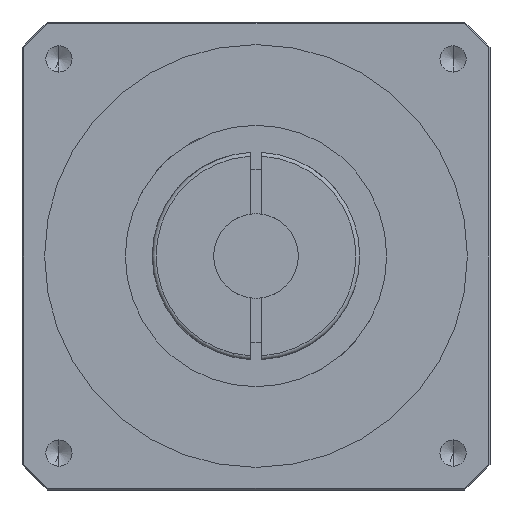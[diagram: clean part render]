
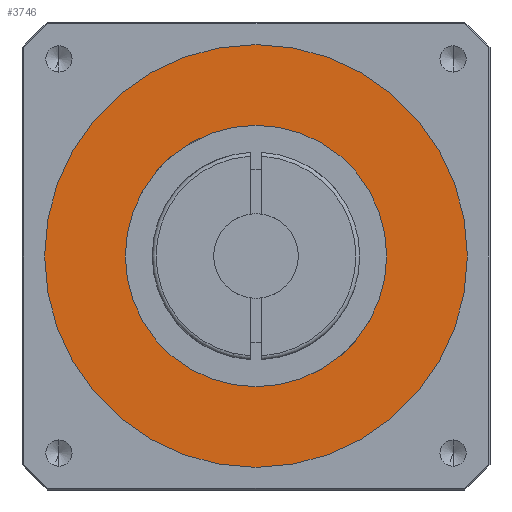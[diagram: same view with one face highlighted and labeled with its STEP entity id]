
A CAD part, front view. The second image highlights one B-rep face of the part: STEP entity #3746.
In plain terms, the highlighted planar face has unit normal (0, -1, 0).
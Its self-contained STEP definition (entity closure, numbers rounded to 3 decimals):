
#94 = EDGE_CURVE ( 'NONE', #3417, #3414, #1978, .T. ) ;
#289 = AXIS2_PLACEMENT_3D ( 'NONE', #479, #480, #481 ) ;
#479 = CARTESIAN_POINT ( 'NONE',  ( 0., -119.5, 0. ) ) ;
#480 = DIRECTION ( 'NONE',  ( 0., -1., 0. ) ) ;
#481 = DIRECTION ( 'NONE',  ( 0., 0., -1. ) ) ;
#496 = CIRCLE ( 'NONE', #2353, 55. ) ;
#763 = FACE_BOUND ( 'NONE', #3522, .T. ) ;
#765 = FACE_OUTER_BOUND ( 'NONE', #3530, .T. ) ;
#1328 = CARTESIAN_POINT ( 'NONE',  ( 0., -119.5, 0. ) ) ;
#1334 = PLANE ( 'NONE',  #1393 ) ;
#1336 = DIRECTION ( 'NONE',  ( 0., -1., 0. ) ) ;
#1337 = DIRECTION ( 'NONE',  ( 0., 0., -1. ) ) ;
#1393 = AXIS2_PLACEMENT_3D ( 'NONE', #1328, #1336, #1337 ) ;
#1846 = CARTESIAN_POINT ( 'NONE',  ( 0., -119.5, -55. ) ) ;
#1861 = CARTESIAN_POINT ( 'NONE',  ( 0., -119.5, 55. ) ) ;
#1978 = CIRCLE ( 'NONE', #289, 34. ) ;
#2213 = CIRCLE ( 'NONE', #2328, 34. ) ;
#2214 = CIRCLE ( 'NONE', #2329, 55. ) ;
#2328 = AXIS2_PLACEMENT_3D ( 'NONE', #3164, #3165, #3166 ) ;
#2329 = AXIS2_PLACEMENT_3D ( 'NONE', #3168, #3169, #3170 ) ;
#2353 = AXIS2_PLACEMENT_3D ( 'NONE', #4015, #4016, #4017 ) ;
#2386 = EDGE_CURVE ( 'NONE', #3414, #3417, #2213, .T. ) ;
#2387 = EDGE_CURVE ( 'NONE', #4586, #4601, #2214, .T. ) ;
#2426 = EDGE_CURVE ( 'NONE', #4601, #4586, #496, .T. ) ;
#3164 = CARTESIAN_POINT ( 'NONE',  ( 0., -119.5, 0. ) ) ;
#3165 = DIRECTION ( 'NONE',  ( 0., -1., 0. ) ) ;
#3166 = DIRECTION ( 'NONE',  ( 0., 0., -1. ) ) ;
#3168 = CARTESIAN_POINT ( 'NONE',  ( 0., -119.5, 0. ) ) ;
#3169 = DIRECTION ( 'NONE',  ( 0., -1., 0. ) ) ;
#3170 = DIRECTION ( 'NONE',  ( 0., 0., -1. ) ) ;
#3414 = VERTEX_POINT ( 'NONE', #4158 ) ;
#3417 = VERTEX_POINT ( 'NONE', #4161 ) ;
#3522 = EDGE_LOOP ( 'NONE', ( #4448, #4449 ) ) ;
#3530 = EDGE_LOOP ( 'NONE', ( #4450, #4451 ) ) ;
#3746 = ADVANCED_FACE ( 'NONE', ( #763, #765 ), #1334, .T. ) ;
#4015 = CARTESIAN_POINT ( 'NONE',  ( 0., -119.5, 0. ) ) ;
#4016 = DIRECTION ( 'NONE',  ( 0., -1., 0. ) ) ;
#4017 = DIRECTION ( 'NONE',  ( 0., 0., -1. ) ) ;
#4158 = CARTESIAN_POINT ( 'NONE',  ( 0., -119.5, -34. ) ) ;
#4161 = CARTESIAN_POINT ( 'NONE',  ( 0., -119.5, 34. ) ) ;
#4448 = ORIENTED_EDGE ( 'NONE', *, *, #2386, .F. ) ;
#4449 = ORIENTED_EDGE ( 'NONE', *, *, #94, .F. ) ;
#4450 = ORIENTED_EDGE ( 'NONE', *, *, #2387, .T. ) ;
#4451 = ORIENTED_EDGE ( 'NONE', *, *, #2426, .T. ) ;
#4586 = VERTEX_POINT ( 'NONE', #1846 ) ;
#4601 = VERTEX_POINT ( 'NONE', #1861 ) ;
